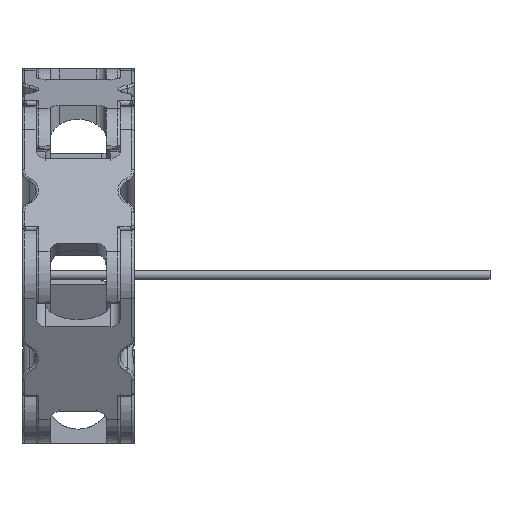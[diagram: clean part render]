
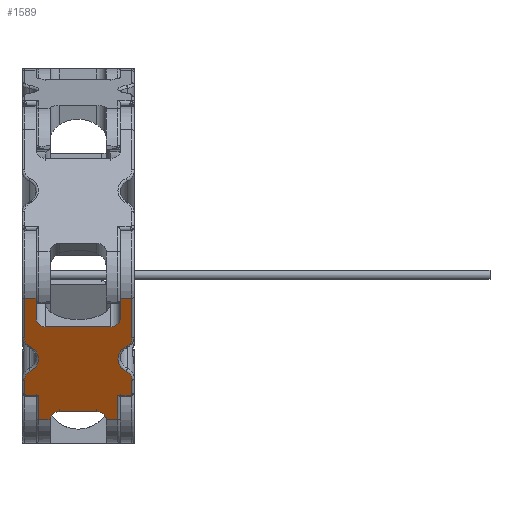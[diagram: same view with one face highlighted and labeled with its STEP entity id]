
A CAD part, front view. The second image highlights one B-rep face of the part: STEP entity #1589.
In plain terms, the highlighted planar face has unit normal (0, -0.866, -0.5) as drawn and (0, -1, 0) by its records, which use the part's own axes.
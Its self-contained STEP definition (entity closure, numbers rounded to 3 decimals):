
#198=CARTESIAN_POINT('',(2.,-5.0,11.75));
#199=VERTEX_POINT('',#198);
#217=CARTESIAN_POINT('',(-2.902,-5.0,11.75));
#218=VERTEX_POINT('',#217);
#226=CARTESIAN_POINT('',(-2.902,-5.0,11.75));
#227=DIRECTION('',(1.0,0.0,0.0));
#228=VECTOR('',#227,4.902);
#229=LINE('',#226,#228);
#230=EDGE_CURVE('',#218,#199,#229,.T.);
#276=CARTESIAN_POINT('',(-3.984,-5.0,11.125));
#277=VERTEX_POINT('',#276);
#285=CARTESIAN_POINT('',(-2.902,-5.0,10.5));
#286=DIRECTION('',(0.0,1.,0.0));
#287=DIRECTION('',(-0.5,0.0,0.866));
#288=AXIS2_PLACEMENT_3D('',#285,#286,#287);
#289=CIRCLE('',#288,1.25);
#290=EDGE_CURVE('',#277,#218,#289,.T.);
#342=CARTESIAN_POINT('',(-7.016,-5.0,11.125));
#343=VERTEX_POINT('',#342);
#351=CARTESIAN_POINT('',(-5.5,-5.0,12.));
#352=DIRECTION('',(0.0,-1.0,0.0));
#353=DIRECTION('',(0.0,0.0,-1.0));
#354=AXIS2_PLACEMENT_3D('',#351,#352,#353);
#355=CIRCLE('',#354,1.75);
#356=EDGE_CURVE('',#343,#277,#355,.T.);
#410=CARTESIAN_POINT('',(-8.098,-5.0,11.75));
#411=VERTEX_POINT('',#410);
#419=CARTESIAN_POINT('',(-8.098,-5.0,10.5));
#420=DIRECTION('',(0.0,1.0,0.0));
#421=DIRECTION('',(0.5,0.0,0.866));
#422=AXIS2_PLACEMENT_3D('',#419,#420,#421);
#423=CIRCLE('',#422,1.25);
#424=EDGE_CURVE('',#411,#343,#423,.T.);
#478=CARTESIAN_POINT('',(-9.755,-5.0,11.75));
#479=VERTEX_POINT('',#478);
#487=CARTESIAN_POINT('',(-9.755,-5.0,11.75));
#488=DIRECTION('',(1.0,0.0,0.));
#489=VECTOR('',#488,1.657);
#490=LINE('',#487,#489);
#491=EDGE_CURVE('',#479,#411,#490,.T.);
#562=CARTESIAN_POINT('',(-9.955,-5.0,11.65));
#563=VERTEX_POINT('',#562);
#571=CARTESIAN_POINT('',(-9.755,-5.0,11.5));
#572=DIRECTION('',(0.0,1.0,0.0));
#573=DIRECTION('',(-0.204,0.0,0.979));
#574=AXIS2_PLACEMENT_3D('',#571,#572,#573);
#575=CIRCLE('',#574,0.25);
#576=EDGE_CURVE('',#563,#479,#575,.T.);
#1375=CARTESIAN_POINT('',(2.,-5.0,10.5));
#1376=VERTEX_POINT('',#1375);
#1377=CARTESIAN_POINT('',(2.,-5.0,10.5));
#1378=DIRECTION('',(0.0,0.0,1.0));
#1379=VECTOR('',#1378,1.25);
#1380=LINE('',#1377,#1379);
#1381=EDGE_CURVE('',#1376,#199,#1380,.T.);
#1401=CARTESIAN_POINT('',(2.,-5.0,0.0));
#1402=DIRECTION('',(0.0,-1.0,0.0));
#1403=DIRECTION('',(0.0,0.0,-1.0));
#1404=AXIS2_PLACEMENT_3D('',#1401,#1402,#1403);
#1405=PLANE('',#1404);
#1406=ORIENTED_EDGE('',*,*,#230,.F.);
#1407=ORIENTED_EDGE('',*,*,#290,.F.);
#1408=ORIENTED_EDGE('',*,*,#356,.F.);
#1409=ORIENTED_EDGE('',*,*,#424,.F.);
#1410=ORIENTED_EDGE('',*,*,#491,.F.);
#1411=ORIENTED_EDGE('',*,*,#576,.F.);
#1412=CARTESIAN_POINT('',(-9.955,-5.0,10.25));
#1413=VERTEX_POINT('',#1412);
#1414=CARTESIAN_POINT('',(-9.955,-5.0,10.25));
#1415=DIRECTION('',(0.0,0.0,1.0));
#1416=VECTOR('',#1415,1.4);
#1417=LINE('',#1414,#1416);
#1418=EDGE_CURVE('',#1413,#563,#1417,.T.);
#1419=ORIENTED_EDGE('',*,*,#1418,.F.);
#1420=CARTESIAN_POINT('',(-13.,-5.0,10.25));
#1421=VERTEX_POINT('',#1420);
#1422=CARTESIAN_POINT('',(-13.,-5.0,10.25));
#1423=DIRECTION('',(1.0,0.0,0.0));
#1424=VECTOR('',#1423,3.045);
#1425=LINE('',#1422,#1424);
#1426=EDGE_CURVE('',#1421,#1413,#1425,.T.);
#1427=ORIENTED_EDGE('',*,*,#1426,.F.);
#1428=CARTESIAN_POINT('',(-13.,-5.0,9.));
#1429=VERTEX_POINT('',#1428);
#1430=CARTESIAN_POINT('',(-13.,-5.0,9.));
#1431=DIRECTION('',(0.,0.0,1.0));
#1432=VECTOR('',#1431,1.25);
#1433=LINE('',#1430,#1432);
#1434=EDGE_CURVE('',#1429,#1421,#1433,.T.);
#1435=ORIENTED_EDGE('',*,*,#1434,.F.);
#1436=CARTESIAN_POINT('',(-12.,-5.0,8.));
#1437=VERTEX_POINT('',#1436);
#1438=CARTESIAN_POINT('',(-13.,-5.0,8.));
#1439=DIRECTION('',(0.0,1.0,0.0));
#1440=DIRECTION('',(-1.0,0.0,0.0));
#1441=AXIS2_PLACEMENT_3D('',#1438,#1439,#1440);
#1442=CIRCLE('',#1441,1.0);
#1443=EDGE_CURVE('',#1429,#1437,#1442,.T.);
#1444=ORIENTED_EDGE('',*,*,#1443,.T.);
#1445=CARTESIAN_POINT('',(-12.,-5.0,4.));
#1446=VERTEX_POINT('',#1445);
#1447=CARTESIAN_POINT('',(-12.,-5.0,8.));
#1448=DIRECTION('',(0.0,0.0,-1.0));
#1449=VECTOR('',#1448,4.);
#1450=LINE('',#1447,#1449);
#1451=EDGE_CURVE('',#1437,#1446,#1450,.T.);
#1452=ORIENTED_EDGE('',*,*,#1451,.T.);
#1453=CARTESIAN_POINT('',(-13.,-5.0,3.));
#1454=VERTEX_POINT('',#1453);
#1455=CARTESIAN_POINT('',(-13.,-5.0,4.));
#1456=DIRECTION('',(0.0,1.0,0.0));
#1457=DIRECTION('',(0.0,0.0,1.0));
#1458=AXIS2_PLACEMENT_3D('',#1455,#1456,#1457);
#1459=CIRCLE('',#1458,1.0);
#1460=EDGE_CURVE('',#1446,#1454,#1459,.T.);
#1461=ORIENTED_EDGE('',*,*,#1460,.T.);
#1462=CARTESIAN_POINT('',(-13.,-5.0,1.75));
#1463=VERTEX_POINT('',#1462);
#1464=CARTESIAN_POINT('',(-13.,-5.0,1.75));
#1465=DIRECTION('',(0.,0.0,1.0));
#1466=VECTOR('',#1465,1.25);
#1467=LINE('',#1464,#1466);
#1468=EDGE_CURVE('',#1463,#1454,#1467,.T.);
#1469=ORIENTED_EDGE('',*,*,#1468,.F.);
#1470=CARTESIAN_POINT('',(-9.955,-5.0,1.75));
#1471=VERTEX_POINT('',#1470);
#1472=CARTESIAN_POINT('',(-9.955,-5.0,1.75));
#1473=DIRECTION('',(-1.0,0.0,0.0));
#1474=VECTOR('',#1473,3.045);
#1475=LINE('',#1472,#1474);
#1476=EDGE_CURVE('',#1471,#1463,#1475,.T.);
#1477=ORIENTED_EDGE('',*,*,#1476,.F.);
#1478=CARTESIAN_POINT('',(-9.955,-5.0,0.35));
#1479=VERTEX_POINT('',#1478);
#1480=CARTESIAN_POINT('',(-9.955,-5.0,1.75));
#1481=DIRECTION('',(0.0,0.0,-1.0));
#1482=VECTOR('',#1481,1.4);
#1483=LINE('',#1480,#1482);
#1484=EDGE_CURVE('',#1471,#1479,#1483,.T.);
#1485=ORIENTED_EDGE('',*,*,#1484,.T.);
#1486=CARTESIAN_POINT('',(-9.755,-5.0,0.25));
#1487=VERTEX_POINT('',#1486);
#1488=CARTESIAN_POINT('',(-9.755,-5.0,0.5));
#1489=DIRECTION('',(0.0,1.,0.0));
#1490=DIRECTION('',(-0.204,0.0,-0.979));
#1491=AXIS2_PLACEMENT_3D('',#1488,#1489,#1490);
#1492=CIRCLE('',#1491,0.25);
#1493=EDGE_CURVE('',#1487,#1479,#1492,.T.);
#1494=ORIENTED_EDGE('',*,*,#1493,.F.);
#1495=CARTESIAN_POINT('',(-8.098,-5.0,0.25));
#1496=VERTEX_POINT('',#1495);
#1497=CARTESIAN_POINT('',(-8.098,-5.0,0.25));
#1498=DIRECTION('',(-1.0,0.0,0.));
#1499=VECTOR('',#1498,1.657);
#1500=LINE('',#1497,#1499);
#1501=EDGE_CURVE('',#1496,#1487,#1500,.T.);
#1502=ORIENTED_EDGE('',*,*,#1501,.F.);
#1503=CARTESIAN_POINT('',(-7.016,-5.0,0.875));
#1504=VERTEX_POINT('',#1503);
#1505=CARTESIAN_POINT('',(-8.098,-5.0,1.5));
#1506=DIRECTION('',(0.0,1.0,0.0));
#1507=DIRECTION('',(0.5,0.0,-0.866));
#1508=AXIS2_PLACEMENT_3D('',#1505,#1506,#1507);
#1509=CIRCLE('',#1508,1.25);
#1510=EDGE_CURVE('',#1504,#1496,#1509,.T.);
#1511=ORIENTED_EDGE('',*,*,#1510,.F.);
#1512=CARTESIAN_POINT('',(-3.984,-5.0,0.875));
#1513=VERTEX_POINT('',#1512);
#1514=CARTESIAN_POINT('',(-5.5,-5.0,0.));
#1515=DIRECTION('',(0.0,-1.0,0.0));
#1516=DIRECTION('',(0.0,0.0,1.0));
#1517=AXIS2_PLACEMENT_3D('',#1514,#1515,#1516);
#1518=CIRCLE('',#1517,1.75);
#1519=EDGE_CURVE('',#1513,#1504,#1518,.T.);
#1520=ORIENTED_EDGE('',*,*,#1519,.F.);
#1521=CARTESIAN_POINT('',(-2.902,-5.0,0.25));
#1522=VERTEX_POINT('',#1521);
#1523=CARTESIAN_POINT('',(-2.902,-5.0,1.5));
#1524=DIRECTION('',(0.0,1.,0.0));
#1525=DIRECTION('',(-0.5,0.0,-0.866));
#1526=AXIS2_PLACEMENT_3D('',#1523,#1524,#1525);
#1527=CIRCLE('',#1526,1.25);
#1528=EDGE_CURVE('',#1522,#1513,#1527,.T.);
#1529=ORIENTED_EDGE('',*,*,#1528,.F.);
#1530=CARTESIAN_POINT('',(2.,-5.0,0.25));
#1531=VERTEX_POINT('',#1530);
#1532=CARTESIAN_POINT('',(2.,-5.0,0.25));
#1533=DIRECTION('',(-1.0,0.0,0.0));
#1534=VECTOR('',#1533,4.902);
#1535=LINE('',#1532,#1534);
#1536=EDGE_CURVE('',#1531,#1522,#1535,.T.);
#1537=ORIENTED_EDGE('',*,*,#1536,.F.);
#1538=CARTESIAN_POINT('',(2.,-5.0,1.5));
#1539=VERTEX_POINT('',#1538);
#1540=CARTESIAN_POINT('',(2.,-5.0,0.25));
#1541=DIRECTION('',(0.0,0.0,1.0));
#1542=VECTOR('',#1541,1.25);
#1543=LINE('',#1540,#1542);
#1544=EDGE_CURVE('',#1531,#1539,#1543,.T.);
#1545=ORIENTED_EDGE('',*,*,#1544,.T.);
#1546=CARTESIAN_POINT('',(-0.5,-5.0,1.5));
#1547=VERTEX_POINT('',#1546);
#1548=CARTESIAN_POINT('',(2.,-5.0,1.5));
#1549=DIRECTION('',(-1.0,0.0,0.0));
#1550=VECTOR('',#1549,2.5);
#1551=LINE('',#1548,#1550);
#1552=EDGE_CURVE('',#1539,#1547,#1551,.T.);
#1553=ORIENTED_EDGE('',*,*,#1552,.T.);
#1554=CARTESIAN_POINT('',(-1.5,-5.0,2.5));
#1555=VERTEX_POINT('',#1554);
#1556=CARTESIAN_POINT('',(-0.5,-5.0,2.5));
#1557=DIRECTION('',(0.0,1.0,0.0));
#1558=DIRECTION('',(1.0,0.0,0.0));
#1559=AXIS2_PLACEMENT_3D('',#1556,#1557,#1558);
#1560=CIRCLE('',#1559,1.0);
#1561=EDGE_CURVE('',#1547,#1555,#1560,.T.);
#1562=ORIENTED_EDGE('',*,*,#1561,.T.);
#1563=CARTESIAN_POINT('',(-1.5,-5.0,9.5));
#1564=VERTEX_POINT('',#1563);
#1565=CARTESIAN_POINT('',(-1.5,-5.0,2.5));
#1566=DIRECTION('',(0.0,0.0,1.0));
#1567=VECTOR('',#1566,7.);
#1568=LINE('',#1565,#1567);
#1569=EDGE_CURVE('',#1555,#1564,#1568,.T.);
#1570=ORIENTED_EDGE('',*,*,#1569,.T.);
#1571=CARTESIAN_POINT('',(-0.5,-5.0,10.5));
#1572=VERTEX_POINT('',#1571);
#1573=CARTESIAN_POINT('',(-0.5,-5.0,9.5));
#1574=DIRECTION('',(0.0,1.0,0.0));
#1575=DIRECTION('',(0.0,0.0,-1.0));
#1576=AXIS2_PLACEMENT_3D('',#1573,#1574,#1575);
#1577=CIRCLE('',#1576,1.0);
#1578=EDGE_CURVE('',#1564,#1572,#1577,.T.);
#1579=ORIENTED_EDGE('',*,*,#1578,.T.);
#1580=CARTESIAN_POINT('',(-0.5,-5.0,10.5));
#1581=DIRECTION('',(1.0,0.0,0.0));
#1582=VECTOR('',#1581,2.5);
#1583=LINE('',#1580,#1582);
#1584=EDGE_CURVE('',#1572,#1376,#1583,.T.);
#1585=ORIENTED_EDGE('',*,*,#1584,.T.);
#1586=ORIENTED_EDGE('',*,*,#1381,.T.);
#1587=EDGE_LOOP('',(#1406,#1407,#1408,#1409,#1410,#1411,#1419,#1427,#1435,#1444,#1452,#1461,#1469,#1477,#1485,#1494,#1502,#1511,#1520,#1529,#1537,#1545,#1553,#1562,#1570,#1579,#1585,#1586));
#1588=FACE_OUTER_BOUND('',#1587,.T.);
#1589=ADVANCED_FACE('',(#1588),#1405,.T.);
